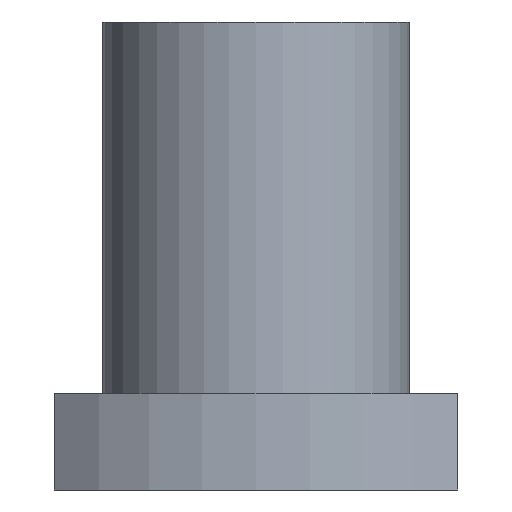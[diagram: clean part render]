
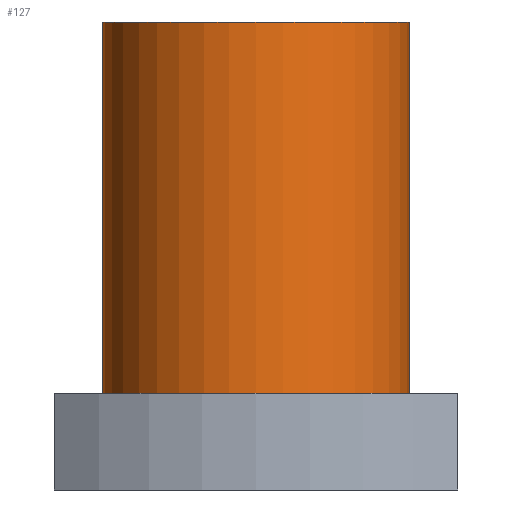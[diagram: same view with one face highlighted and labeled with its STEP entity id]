
A CAD part, front view. The second image highlights one B-rep face of the part: STEP entity #127.
In plain terms, the highlighted cylindrical face has radius 9.5 mm (diameter 19 mm), a partial arc.
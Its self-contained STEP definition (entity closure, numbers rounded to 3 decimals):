
#86=CARTESIAN_POINT('',(7.5,-10.383,0.0));
#87=DIRECTION('',(0.0,0.0,1.0));
#88=DIRECTION('',(-1.0,0.0,0.0));
#89=AXIS2_PLACEMENT_3D('',#86,#87,#88);
#90=CYLINDRICAL_SURFACE('',#89,9.5);
#91=CARTESIAN_POINT('',(-2.,-10.383,6.0));
#92=VERTEX_POINT('',#91);
#93=CARTESIAN_POINT('',(-2.,-10.383,29.));
#94=VERTEX_POINT('',#93);
#95=CARTESIAN_POINT('',(-2.,-10.383,6.0));
#96=DIRECTION('',(0.0,0.0,1.0));
#97=VECTOR('',#96,23.);
#98=LINE('',#95,#97);
#99=EDGE_CURVE('',#92,#94,#98,.T.);
#100=ORIENTED_EDGE('',*,*,#99,.F.);
#101=CARTESIAN_POINT('',(17.,-10.383,6.));
#102=VERTEX_POINT('',#101);
#103=CARTESIAN_POINT('',(7.5,-10.383,6.));
#104=DIRECTION('',(0.0,0.0,-1.0));
#105=DIRECTION('',(-1.0,0.0,0.0));
#106=AXIS2_PLACEMENT_3D('',#103,#104,#105);
#107=CIRCLE('',#106,9.5);
#108=EDGE_CURVE('',#102,#92,#107,.T.);
#109=ORIENTED_EDGE('',*,*,#108,.F.);
#110=CARTESIAN_POINT('',(17.,-10.383,29.));
#111=VERTEX_POINT('',#110);
#112=CARTESIAN_POINT('',(17.,-10.383,29.));
#113=DIRECTION('',(0.0,0.0,-1.0));
#114=VECTOR('',#113,23.);
#115=LINE('',#112,#114);
#116=EDGE_CURVE('',#111,#102,#115,.T.);
#117=ORIENTED_EDGE('',*,*,#116,.F.);
#118=CARTESIAN_POINT('',(7.5,-10.383,29.));
#119=DIRECTION('',(0.0,0.0,-1.0));
#120=DIRECTION('',(-1.0,0.0,0.0));
#121=AXIS2_PLACEMENT_3D('',#118,#119,#120);
#122=CIRCLE('',#121,9.5);
#123=EDGE_CURVE('',#111,#94,#122,.T.);
#124=ORIENTED_EDGE('',*,*,#123,.T.);
#125=EDGE_LOOP('',(#100,#109,#117,#124));
#126=FACE_OUTER_BOUND('',#125,.T.);
#127=ADVANCED_FACE('',(#126),#90,.T.);
